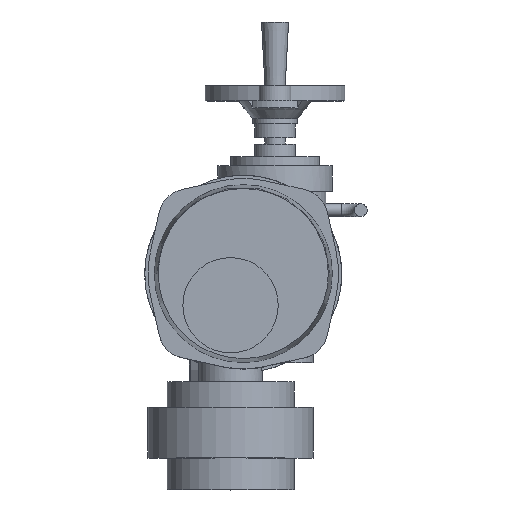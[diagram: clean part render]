
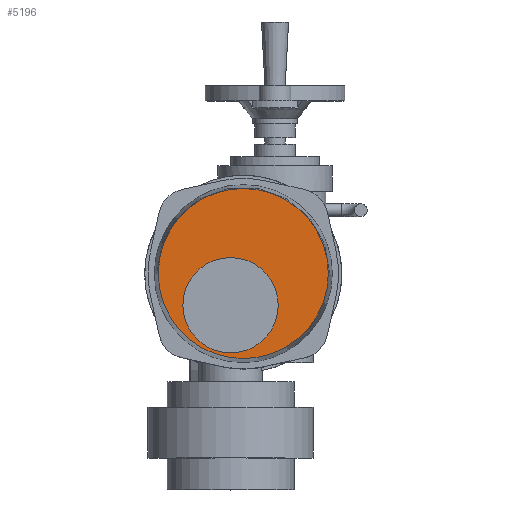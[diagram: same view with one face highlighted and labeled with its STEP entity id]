
A CAD part, top view. The second image highlights one B-rep face of the part: STEP entity #5196.
In plain terms, the highlighted planar face has unit normal (0, 0, 1).
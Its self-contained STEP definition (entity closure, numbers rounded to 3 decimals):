
#5196=ADVANCED_FACE('',(#10670,#10672),#10674,.T.);
#10670=FACE_BOUND('',#10671,.T.);
#10671=EDGE_LOOP('',(#14595));
#10672=FACE_BOUND('',#10673,.T.);
#10673=EDGE_LOOP('',(#14596));
#10674=PLANE('',#10675);
#10675=AXIS2_PLACEMENT_3D('',#10676,#10677,#10678);
#10676=CARTESIAN_POINT('',(15.,30.,422.));
#10677=DIRECTION('',(0.,0.,1.));
#10678=DIRECTION('',(-1.,0.,0.));
#14595=ORIENTED_EDGE('',*,*,#16475,.T.);
#14596=ORIENTED_EDGE('',*,*,#17397,.F.);
#16475=EDGE_CURVE('',#19111,#19111,#19112,.T.);
#17397=EDGE_CURVE('',#20492,#20492,#20493,.T.);
#19111=VERTEX_POINT('',#25143);
#19112=CIRCLE('',#25144,66.908);
#20492=VERTEX_POINT('',#28714);
#20493=CIRCLE('',#28715,37.5);
#25143=CARTESIAN_POINT('',(-51.908,30.,422.));
#25144=AXIS2_PLACEMENT_3D('',#25145,#25146,#25147);
#25145=CARTESIAN_POINT('',(15.,30.,422.));
#25146=DIRECTION('',(0.,0.,1.));
#25147=DIRECTION('',(-1.,0.,0.));
#28714=CARTESIAN_POINT('',(-32.5,5.,422.));
#28715=AXIS2_PLACEMENT_3D('',#28716,#28717,#28718);
#28716=CARTESIAN_POINT('',(5.,5.,422.));
#28717=DIRECTION('',(0.,0.,1.));
#28718=DIRECTION('',(-1.,0.,0.));
